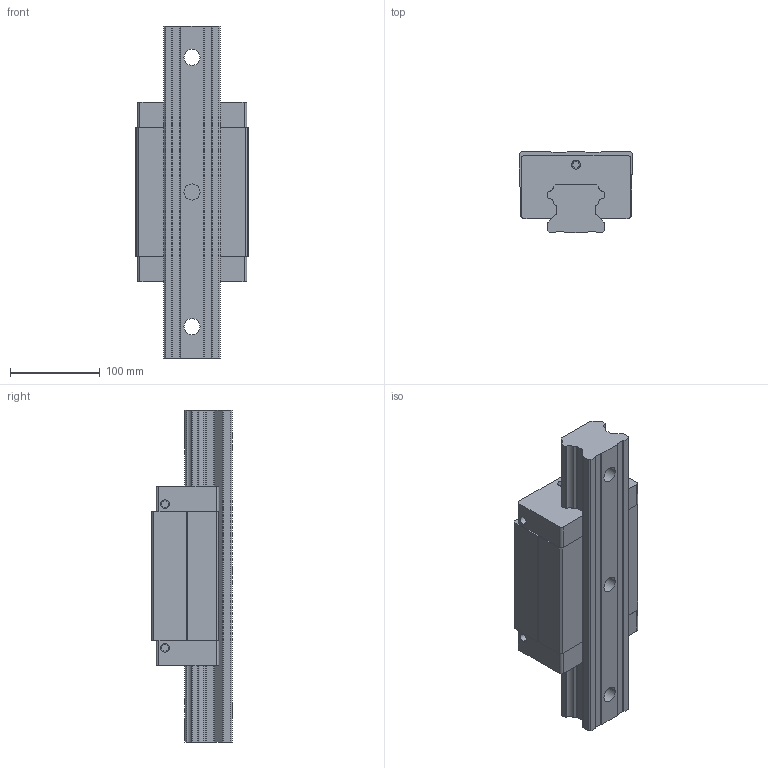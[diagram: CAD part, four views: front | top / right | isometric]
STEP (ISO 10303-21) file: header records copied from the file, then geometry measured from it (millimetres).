
FILE_DESCRIPTION((''),'2;1');
FILE_NAME('HGH65CA_ASM_ASM','2008-07-11T',('minyao'),(''),'PRO/ENGINEER BY PARAMETRIC TECHNOLOGY CORPORATION, 2004360','PRO/ENGINEER BY PARAMETRIC TECHNOLOGY CORPORATION, 2004360','');
FILE_SCHEMA(('CONFIG_CONTROL_DESIGN'));
Length unit declared in the file: millimetre
Products named in the file (5): HGH65_1; HGR65_1; HGH65_ASM_1_ASM_ASM; ASM0001_ASM; HGH65CA_ASM_ASM
Assembly tree (4 placements, depth 4):
  HGH65CA_ASM_ASM
    ASM0001_ASM
      HGH65_ASM_1_ASM_ASM
        HGH65_1
        HGR65_1
Bounding box: 126 x 90 x 370 mm (x, y, z)
Volume: 2405554.4 mm3; surface area: 221228.1 mm2
Topology: 2 solids, 2 shells, 155 faces, 426 edges, 280 vertices
Faces by surface type: plane 89, cylinder 46, cone 20
Entity records: 5097 total; most frequent: CARTESIAN_POINT 935, DIRECTION 860, ORIENTED_EDGE 836, EDGE_CURVE 418, AXIS2_PLACEMENT_3D 287, VECTOR 286, LINE 286, VERTEX_POINT 280
